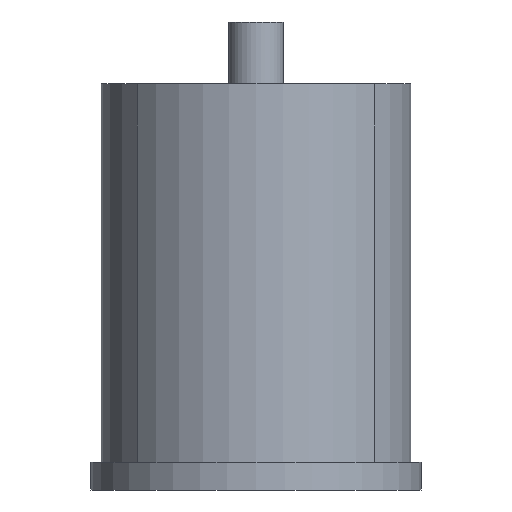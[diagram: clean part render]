
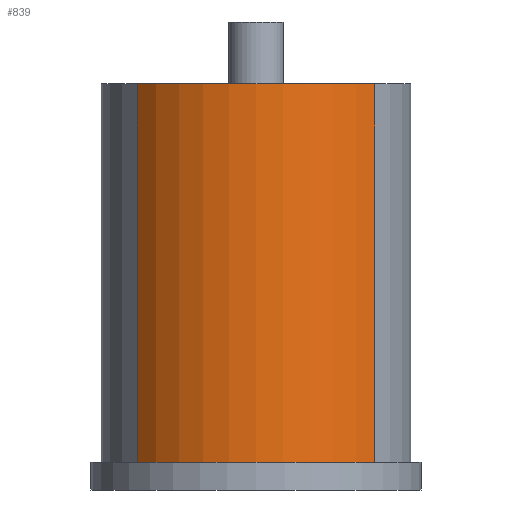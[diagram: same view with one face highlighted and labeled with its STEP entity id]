
A CAD part, left-side view. The second image highlights one B-rep face of the part: STEP entity #839.
In plain terms, the highlighted cylindrical face has radius 45 mm (diameter 90 mm), a partial arc.
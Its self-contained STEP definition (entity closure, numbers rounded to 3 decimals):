
#839 = ADVANCED_FACE('',(#840),#855,.T.);
#840 = FACE_BOUND('',#841,.F.);
#841 = EDGE_LOOP('',(#842,#878,#904,#933));
#842 = ORIENTED_EDGE('',*,*,#843,.F.);
#843 = EDGE_CURVE('',#844,#846,#848,.T.);
#844 = VERTEX_POINT('',#845);
#845 = CARTESIAN_POINT('',(-28.925,34.472,0.));
#846 = VERTEX_POINT('',#847);
#847 = CARTESIAN_POINT('',(-28.925,-34.472,0.));
#848 = SURFACE_CURVE('',#849,(#854,#866),.PCURVE_S1.);
#849 = CIRCLE('',#850,45.);
#850 = AXIS2_PLACEMENT_3D('',#851,#852,#853);
#851 = CARTESIAN_POINT('',(0.,0.,0.));
#852 = DIRECTION('',(0.,0.,1.));
#853 = DIRECTION('',(1.,0.,0.));
#854 = PCURVE('',#855,#860);
#855 = CYLINDRICAL_SURFACE('',#856,45.);
#856 = AXIS2_PLACEMENT_3D('',#857,#858,#859);
#857 = CARTESIAN_POINT('',(0.,0.,0.));
#858 = DIRECTION('',(-0.,-0.,-1.));
#859 = DIRECTION('',(1.,0.,0.));
#860 = DEFINITIONAL_REPRESENTATION('',(#861),#865);
#861 = LINE('',#862,#863);
#862 = CARTESIAN_POINT('',(-0.,0.));
#863 = VECTOR('',#864,1.);
#864 = DIRECTION('',(-1.,0.));
#865 = ( GEOMETRIC_REPRESENTATION_CONTEXT(2) 
PARAMETRIC_REPRESENTATION_CONTEXT() REPRESENTATION_CONTEXT('2D SPACE',''
  ) );
#866 = PCURVE('',#867,#872);
#867 = PLANE('',#868);
#868 = AXIS2_PLACEMENT_3D('',#869,#870,#871);
#869 = CARTESIAN_POINT('',(0.,0.,0.));
#870 = DIRECTION('',(0.,0.,1.));
#871 = DIRECTION('',(1.,0.,-0.));
#872 = DEFINITIONAL_REPRESENTATION('',(#873),#877);
#873 = CIRCLE('',#874,45.);
#874 = AXIS2_PLACEMENT_2D('',#875,#876);
#875 = CARTESIAN_POINT('',(0.,0.));
#876 = DIRECTION('',(1.,0.));
#877 = ( GEOMETRIC_REPRESENTATION_CONTEXT(2) 
PARAMETRIC_REPRESENTATION_CONTEXT() REPRESENTATION_CONTEXT('2D SPACE',''
  ) );
#878 = ORIENTED_EDGE('',*,*,#879,.F.);
#879 = EDGE_CURVE('',#880,#844,#882,.T.);
#880 = VERTEX_POINT('',#881);
#881 = CARTESIAN_POINT('',(-28.925,34.472,110.));
#882 = SURFACE_CURVE('',#883,(#887,#893),.PCURVE_S1.);
#883 = LINE('',#884,#885);
#884 = CARTESIAN_POINT('',(-28.925,34.472,0.));
#885 = VECTOR('',#886,1.);
#886 = DIRECTION('',(-0.,-0.,-1.));
#887 = PCURVE('',#855,#888);
#888 = DEFINITIONAL_REPRESENTATION('',(#889),#892);
#889 = B_SPLINE_CURVE_WITH_KNOTS('',1,(#890,#891),.UNSPECIFIED.,.F.,.F.,
  (2,2),(-110.,0.),.PIECEWISE_BEZIER_KNOTS.);
#890 = CARTESIAN_POINT('',(-2.269,-110.));
#891 = CARTESIAN_POINT('',(-2.269,0.));
#892 = ( GEOMETRIC_REPRESENTATION_CONTEXT(2) 
PARAMETRIC_REPRESENTATION_CONTEXT() REPRESENTATION_CONTEXT('2D SPACE',''
  ) );
#893 = PCURVE('',#894,#899);
#894 = PLANE('',#895);
#895 = AXIS2_PLACEMENT_3D('',#896,#897,#898);
#896 = CARTESIAN_POINT('',(0.,0.,0.));
#897 = DIRECTION('',(-0.766,-0.643,0.));
#898 = DIRECTION('',(-0.643,0.766,0.));
#899 = DEFINITIONAL_REPRESENTATION('',(#900),#903);
#900 = B_SPLINE_CURVE_WITH_KNOTS('',1,(#901,#902),.UNSPECIFIED.,.F.,.F.,
  (2,2),(-110.,0.),.PIECEWISE_BEZIER_KNOTS.);
#901 = CARTESIAN_POINT('',(45.,-110.));
#902 = CARTESIAN_POINT('',(45.,0.));
#903 = ( GEOMETRIC_REPRESENTATION_CONTEXT(2) 
PARAMETRIC_REPRESENTATION_CONTEXT() REPRESENTATION_CONTEXT('2D SPACE',''
  ) );
#904 = ORIENTED_EDGE('',*,*,#905,.T.);
#905 = EDGE_CURVE('',#880,#906,#908,.T.);
#906 = VERTEX_POINT('',#907);
#907 = CARTESIAN_POINT('',(-28.925,-34.472,110.));
#908 = SURFACE_CURVE('',#909,(#914,#921),.PCURVE_S1.);
#909 = CIRCLE('',#910,45.);
#910 = AXIS2_PLACEMENT_3D('',#911,#912,#913);
#911 = CARTESIAN_POINT('',(0.,0.,110.));
#912 = DIRECTION('',(0.,0.,1.));
#913 = DIRECTION('',(1.,0.,0.));
#914 = PCURVE('',#855,#915);
#915 = DEFINITIONAL_REPRESENTATION('',(#916),#920);
#916 = LINE('',#917,#918);
#917 = CARTESIAN_POINT('',(-0.,-110.));
#918 = VECTOR('',#919,1.);
#919 = DIRECTION('',(-1.,0.));
#920 = ( GEOMETRIC_REPRESENTATION_CONTEXT(2) 
PARAMETRIC_REPRESENTATION_CONTEXT() REPRESENTATION_CONTEXT('2D SPACE',''
  ) );
#921 = PCURVE('',#922,#927);
#922 = PLANE('',#923);
#923 = AXIS2_PLACEMENT_3D('',#924,#925,#926);
#924 = CARTESIAN_POINT('',(0.,0.,110.));
#925 = DIRECTION('',(0.,0.,1.));
#926 = DIRECTION('',(1.,0.,-0.));
#927 = DEFINITIONAL_REPRESENTATION('',(#928),#932);
#928 = CIRCLE('',#929,45.);
#929 = AXIS2_PLACEMENT_2D('',#930,#931);
#930 = CARTESIAN_POINT('',(0.,0.));
#931 = DIRECTION('',(1.,0.));
#932 = ( GEOMETRIC_REPRESENTATION_CONTEXT(2) 
PARAMETRIC_REPRESENTATION_CONTEXT() REPRESENTATION_CONTEXT('2D SPACE',''
  ) );
#933 = ORIENTED_EDGE('',*,*,#934,.T.);
#934 = EDGE_CURVE('',#906,#846,#935,.T.);
#935 = SURFACE_CURVE('',#936,(#940,#946),.PCURVE_S1.);
#936 = LINE('',#937,#938);
#937 = CARTESIAN_POINT('',(-28.925,-34.472,0.));
#938 = VECTOR('',#939,1.);
#939 = DIRECTION('',(-0.,-0.,-1.));
#940 = PCURVE('',#855,#941);
#941 = DEFINITIONAL_REPRESENTATION('',(#942),#945);
#942 = B_SPLINE_CURVE_WITH_KNOTS('',1,(#943,#944),.UNSPECIFIED.,.F.,.F.,
  (2,2),(-110.,0.),.PIECEWISE_BEZIER_KNOTS.);
#943 = CARTESIAN_POINT('',(-4.014,-110.));
#944 = CARTESIAN_POINT('',(-4.014,0.));
#945 = ( GEOMETRIC_REPRESENTATION_CONTEXT(2) 
PARAMETRIC_REPRESENTATION_CONTEXT() REPRESENTATION_CONTEXT('2D SPACE',''
  ) );
#946 = PCURVE('',#947,#952);
#947 = PLANE('',#948);
#948 = AXIS2_PLACEMENT_3D('',#949,#950,#951);
#949 = CARTESIAN_POINT('',(-38.567,-45.963,0.));
#950 = DIRECTION('',(-0.766,0.643,0.));
#951 = DIRECTION('',(0.643,0.766,0.));
#952 = DEFINITIONAL_REPRESENTATION('',(#953),#956);
#953 = B_SPLINE_CURVE_WITH_KNOTS('',1,(#954,#955),.UNSPECIFIED.,.F.,.F.,
  (2,2),(-110.,0.),.PIECEWISE_BEZIER_KNOTS.);
#954 = CARTESIAN_POINT('',(15.,-110.));
#955 = CARTESIAN_POINT('',(15.,0.));
#956 = ( GEOMETRIC_REPRESENTATION_CONTEXT(2) 
PARAMETRIC_REPRESENTATION_CONTEXT() REPRESENTATION_CONTEXT('2D SPACE',''
  ) );
